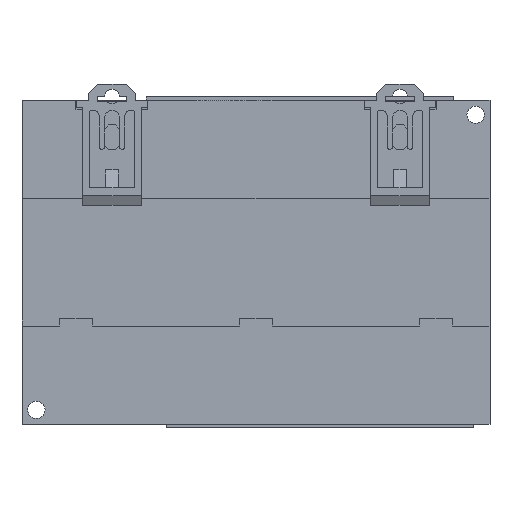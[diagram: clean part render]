
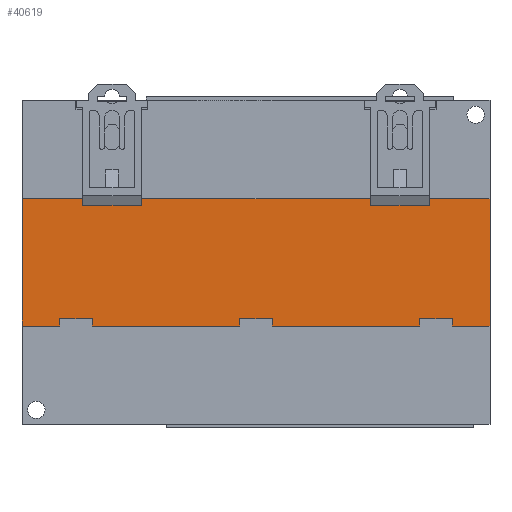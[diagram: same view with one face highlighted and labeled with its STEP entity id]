
A CAD part, front view. The second image highlights one B-rep face of the part: STEP entity #40619.
In plain terms, the highlighted planar face has unit normal (0, -1, 0).
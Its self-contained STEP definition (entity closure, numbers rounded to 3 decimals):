
#6196 = DIRECTION ( 'NONE',  ( 1., 0., 0. ) ) ;
#6197 = VECTOR ( 'NONE', #6196, 1000. ) ;
#6205 = CARTESIAN_POINT ( 'NONE',  ( -65., -47.3, -17.7 ) ) ;
#6206 = LINE ( 'NONE', #6205, #6197 ) ;
#15125 = AXIS2_PLACEMENT_3D ( 'NONE', #15171, #15170, #15169 ) ;
#15130 = FACE_OUTER_BOUND ( 'NONE', #40703, .T. ) ;
#15145 = PLANE ( 'NONE',  #15125 ) ;
#15169 = DIRECTION ( 'NONE',  ( 0., 0., 1. ) ) ;
#15170 = DIRECTION ( 'NONE',  ( 0., 1., 0. ) ) ;
#15171 = CARTESIAN_POINT ( 'NONE',  ( -65., -47.3, 17.7 ) ) ;
#23710 = VERTEX_POINT ( 'NONE', #85339 ) ;
#23769 = EDGE_CURVE ( 'NONE', #23710, #71681, #85433, .T. ) ;
#31672 = EDGE_CURVE ( 'NONE', #31718, #71676, #101898, .T. ) ;
#31718 = VERTEX_POINT ( 'NONE', #102045 ) ;
#35934 = EDGE_CURVE ( 'NONE', #23710, #31718, #6206, .T. ) ;
#40619 = ADVANCED_FACE ( 'NONE', ( #15130 ), #15145, .F. ) ;
#40625 = ORIENTED_EDGE ( 'NONE', *, *, #31672, .T. ) ;
#40635 = ORIENTED_EDGE ( 'NONE', *, *, #71656, .F. ) ;
#40646 = ORIENTED_EDGE ( 'NONE', *, *, #23769, .F. ) ;
#40703 = EDGE_LOOP ( 'NONE', ( #40625, #40635, #40646, #40764 ) ) ;
#40764 = ORIENTED_EDGE ( 'NONE', *, *, #35934, .T. ) ;
#71656 = EDGE_CURVE ( 'NONE', #71681, #71676, #115137, .T. ) ;
#71676 = VERTEX_POINT ( 'NONE', #115162 ) ;
#71681 = VERTEX_POINT ( 'NONE', #115184 ) ;
#85339 = CARTESIAN_POINT ( 'NONE',  ( -65., -47.3, -17.7 ) ) ;
#85427 = DIRECTION ( 'NONE',  ( 0., 0., 1. ) ) ;
#85428 = VECTOR ( 'NONE', #85427, 1000. ) ;
#85430 = CARTESIAN_POINT ( 'NONE',  ( -65., -47.3, 17.7 ) ) ;
#85433 = LINE ( 'NONE', #85430, #85428 ) ;
#101891 = VECTOR ( 'NONE', #101896, 1000. ) ;
#101896 = DIRECTION ( 'NONE',  ( 0., 0., 1. ) ) ;
#101897 = CARTESIAN_POINT ( 'NONE',  ( 65., -47.3, 17.7 ) ) ;
#101898 = LINE ( 'NONE', #101897, #101891 ) ;
#102045 = CARTESIAN_POINT ( 'NONE',  ( 65., -47.3, -17.7 ) ) ;
#115135 = DIRECTION ( 'NONE',  ( 1., 0., 0. ) ) ;
#115136 = CARTESIAN_POINT ( 'NONE',  ( 30.1, -47.3, 17.7 ) ) ;
#115137 = LINE ( 'NONE', #115136, #115192 ) ;
#115162 = CARTESIAN_POINT ( 'NONE',  ( 65., -47.3, 17.7 ) ) ;
#115184 = CARTESIAN_POINT ( 'NONE',  ( -65., -47.3, 17.7 ) ) ;
#115192 = VECTOR ( 'NONE', #115135, 1000. ) ;
